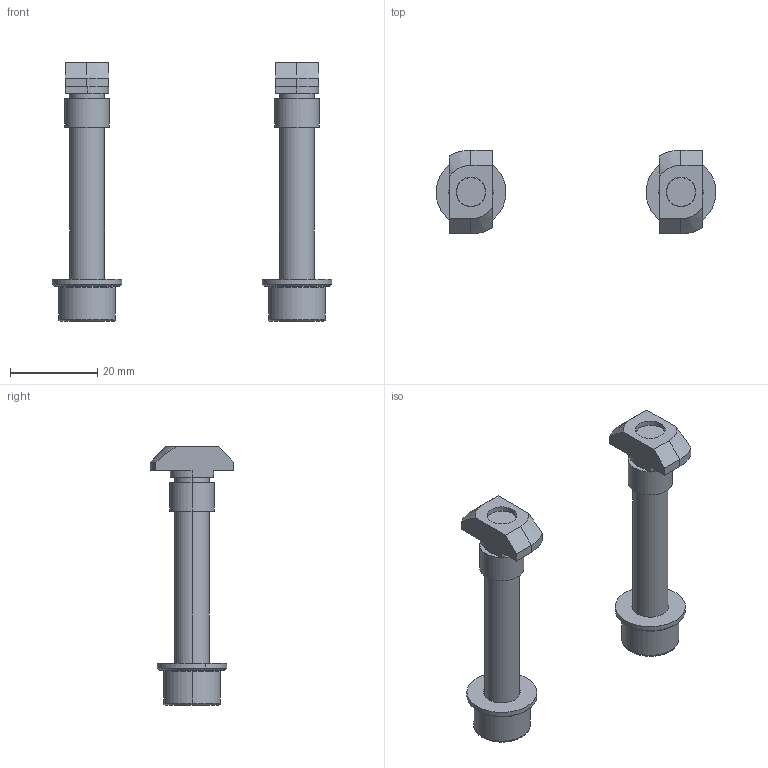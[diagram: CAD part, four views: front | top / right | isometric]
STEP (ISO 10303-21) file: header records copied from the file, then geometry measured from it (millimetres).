
FILE_DESCRIPTION (( 'STEP AP203' ), '1' );
FILE_NAME ('75000002_ASMEL-100.STEP', '2016-11-17T16:44:30', ( '' ), ( '' ), 'SwSTEP 2.0', 'SolidWorks 2015', '' );
FILE_SCHEMA (( 'CONFIG_CONTROL_DESIGN' ));
Length unit declared in the file: millimetre
Products named in the file (1): 75000002_ASMEL-100
Bounding box: 63.98 x 19.2 x 59.1 mm (x, y, z)
Volume: 9088.3 mm3; surface area: 6110.1 mm2
Topology: 2 solids, 2 shells, 112 faces, 256 edges, 164 vertices
Faces by surface type: plane 52, cylinder 40, cone 16, torus 4
Entity records: 3483 total; most frequent: CARTESIAN_POINT 801, DIRECTION 566, ORIENTED_EDGE 512, EDGE_CURVE 256, AXIS2_PLACEMENT_3D 209, VERTEX_POINT 164, VECTOR 148, LINE 148
